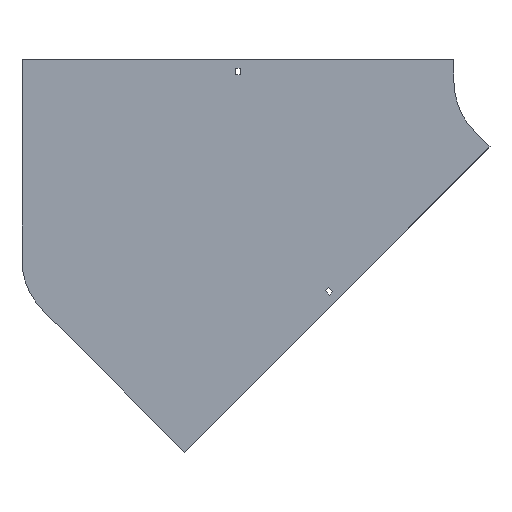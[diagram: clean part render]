
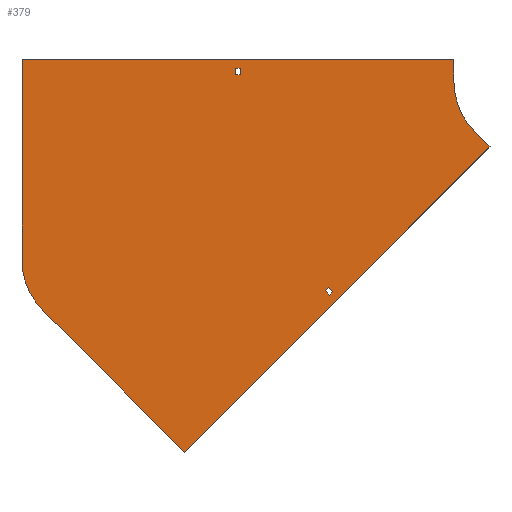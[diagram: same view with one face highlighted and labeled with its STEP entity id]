
A CAD part, front view. The second image highlights one B-rep face of the part: STEP entity #379.
In plain terms, the highlighted planar face has unit normal (0, -1, 0).
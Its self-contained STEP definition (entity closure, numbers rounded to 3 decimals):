
#5 = VERTEX_POINT ( 'NONE', #502 ) ;
#12 = VERTEX_POINT ( 'NONE', #788 ) ;
#35 = EDGE_CURVE ( 'NONE', #895, #94, #371, .T. ) ;
#70 = CARTESIAN_POINT ( 'NONE',  ( -273.827, 0., -299.283 ) ) ;
#94 = VERTEX_POINT ( 'NONE', #540 ) ;
#96 = CARTESIAN_POINT ( 'NONE',  ( -280.191, 0., -292.919 ) ) ;
#110 = EDGE_LOOP ( 'NONE', ( #1560, #966, #730, #1944 ) ) ;
#123 = VERTEX_POINT ( 'NONE', #569 ) ;
#145 = CARTESIAN_POINT ( 'NONE',  ( -405.25, 0., 9. ) ) ;
#156 = LINE ( 'NONE', #755, #1116 ) ;
#158 = EDGE_CURVE ( 'NONE', #735, #5, #1308, .T. ) ;
#203 = DIRECTION ( 'NONE',  ( -1., 0., 0. ) ) ;
#220 = LINE ( 'NONE', #820, #463 ) ;
#222 = LINE ( 'NONE', #671, #1508 ) ;
#243 = ORIENTED_EDGE ( 'NONE', *, *, #296, .F. ) ;
#260 = EDGE_CURVE ( 'NONE', #611, #12, #769, .T. ) ;
#288 = DIRECTION ( 'NONE',  ( 0., -1., 0. ) ) ;
#296 = EDGE_CURVE ( 'NONE', #1522, #1083, #1368, .T. ) ;
#321 = CARTESIAN_POINT ( 'NONE',  ( -275.595, 0., -288.323 ) ) ;
#369 = VECTOR ( 'NONE', #1279, 1000. ) ;
#371 = LINE ( 'NONE', #932, #524 ) ;
#379 = ADVANCED_FACE ( 'NONE', ( #1484, #1635, #1760 ), #1795, .T. ) ;
#391 = LINE ( 'NONE', #1002, #629 ) ;
#409 = CARTESIAN_POINT ( 'NONE',  ( -100., 0., 30. ) ) ;
#463 = VECTOR ( 'NONE', #1422, 1000. ) ;
#488 = DIRECTION ( 'NONE',  ( 0., 0., -1. ) ) ;
#499 = VECTOR ( 'NONE', #1302, 1000. ) ;
#502 = CARTESIAN_POINT ( 'NONE',  ( -398.75, 0., 18. ) ) ;
#503 = EDGE_CURVE ( 'NONE', #94, #611, #1403, .T. ) ;
#508 = CARTESIAN_POINT ( 'NONE',  ( -100., 0., 0. ) ) ;
#513 = EDGE_CURVE ( 'NONE', #1814, #1543, #618, .T. ) ;
#524 = VECTOR ( 'NONE', #1115, 1000. ) ;
#540 = CARTESIAN_POINT ( 'NONE',  ( -49.497, 0., -91.924 ) ) ;
#553 = ORIENTED_EDGE ( 'NONE', *, *, #1154, .F. ) ;
#563 = EDGE_LOOP ( 'NONE', ( #1454, #243, #1032, #974, #1164, #1299, #1129, #1659 ) ) ;
#569 = CARTESIAN_POINT ( 'NONE',  ( -100., 0., 30. ) ) ;
#597 = CARTESIAN_POINT ( 'NONE',  ( -269.231, 0., -294.687 ) ) ;
#611 = VERTEX_POINT ( 'NONE', #1586 ) ;
#618 = LINE ( 'NONE', #792, #997 ) ;
#629 = VECTOR ( 'NONE', #1460, 1000. ) ;
#658 = CARTESIAN_POINT ( 'NONE',  ( -704., 0., 30. ) ) ;
#668 = VERTEX_POINT ( 'NONE', #96 ) ;
#671 = CARTESIAN_POINT ( 'NONE',  ( -280.191, 0., -292.919 ) ) ;
#714 = CARTESIAN_POINT ( 'NONE',  ( 0., 0., 0. ) ) ;
#715 = DIRECTION ( 'NONE',  ( 0., 1., 0. ) ) ;
#718 = EDGE_CURVE ( 'NONE', #1862, #895, #1634, .T. ) ;
#721 = VECTOR ( 'NONE', #1031, 1000. ) ;
#724 = DIRECTION ( 'NONE',  ( 0., 0., -1. ) ) ;
#730 = ORIENTED_EDGE ( 'NONE', *, *, #860, .T. ) ;
#735 = VERTEX_POINT ( 'NONE', #1548 ) ;
#755 = CARTESIAN_POINT ( 'NONE',  ( -704., 0., 30. ) ) ;
#758 = CARTESIAN_POINT ( 'NONE',  ( -476.59, 0., -519.016 ) ) ;
#769 = LINE ( 'NONE', #758, #1504 ) ;
#788 = CARTESIAN_POINT ( 'NONE',  ( -674.711, 0., -320.896 ) ) ;
#792 = CARTESIAN_POINT ( 'NONE',  ( -405.25, 0., 9. ) ) ;
#813 = DIRECTION ( 'NONE',  ( 0., -1., 0. ) ) ;
#816 = EDGE_CURVE ( 'NONE', #1446, #668, #222, .T. ) ;
#820 = CARTESIAN_POINT ( 'NONE',  ( -405.25, 0., 9. ) ) ;
#837 = DIRECTION ( 'NONE',  ( 0., 0., -1. ) ) ;
#841 = AXIS2_PLACEMENT_3D ( 'NONE', #714, #288, #724 ) ;
#853 = DIRECTION ( 'NONE',  ( 1., 0., 0. ) ) ;
#860 = EDGE_CURVE ( 'NONE', #5, #1814, #1325, .T. ) ;
#895 = VERTEX_POINT ( 'NONE', #1024 ) ;
#904 = AXIS2_PLACEMENT_3D ( 'NONE', #1578, #813, #488 ) ;
#932 = CARTESIAN_POINT ( 'NONE',  ( -70.711, 0., -70.711 ) ) ;
#944 = ORIENTED_EDGE ( 'NONE', *, *, #1324, .F. ) ;
#949 = CARTESIAN_POINT ( 'NONE',  ( -49.497, 0., -91.924 ) ) ;
#966 = ORIENTED_EDGE ( 'NONE', *, *, #158, .T. ) ;
#974 = ORIENTED_EDGE ( 'NONE', *, *, #260, .F. ) ;
#997 = VECTOR ( 'NONE', #203, 1000. ) ;
#1002 = CARTESIAN_POINT ( 'NONE',  ( -280.191, 0., -292.919 ) ) ;
#1024 = CARTESIAN_POINT ( 'NONE',  ( -70.711, 0., -70.711 ) ) ;
#1031 = DIRECTION ( 'NONE',  ( -0.707, 0., 0.707 ) ) ;
#1032 = ORIENTED_EDGE ( 'NONE', *, *, #1790, .F. ) ;
#1083 = VERTEX_POINT ( 'NONE', #658 ) ;
#1115 = DIRECTION ( 'NONE',  ( 0.707, 0., -0.707 ) ) ;
#1116 = VECTOR ( 'NONE', #1354, 1000. ) ;
#1129 = ORIENTED_EDGE ( 'NONE', *, *, #718, .F. ) ;
#1134 = EDGE_CURVE ( 'NONE', #1543, #735, #220, .T. ) ;
#1145 = CARTESIAN_POINT ( 'NONE',  ( -273.827, 0., -299.283 ) ) ;
#1154 = EDGE_CURVE ( 'NONE', #1623, #1715, #1903, .T. ) ;
#1157 = EDGE_CURVE ( 'NONE', #123, #1862, #1433, .T. ) ;
#1160 = CARTESIAN_POINT ( 'NONE',  ( -398.75, 0., 9. ) ) ;
#1164 = ORIENTED_EDGE ( 'NONE', *, *, #503, .F. ) ;
#1166 = EDGE_CURVE ( 'NONE', #668, #1623, #391, .T. ) ;
#1171 = CARTESIAN_POINT ( 'NONE',  ( -275.595, 0., -288.323 ) ) ;
#1199 = CARTESIAN_POINT ( 'NONE',  ( -704., 0., -250.185 ) ) ;
#1206 = EDGE_LOOP ( 'NONE', ( #553, #1640, #1419, #944 ) ) ;
#1226 = CARTESIAN_POINT ( 'NONE',  ( -704., 0., -250.185 ) ) ;
#1279 = DIRECTION ( 'NONE',  ( 0.707, 0., 0.707 ) ) ;
#1287 = CARTESIAN_POINT ( 'NONE',  ( -405.25, 0., 18. ) ) ;
#1299 = ORIENTED_EDGE ( 'NONE', *, *, #35, .F. ) ;
#1302 = DIRECTION ( 'NONE',  ( 0., 0., -1. ) ) ;
#1308 = LINE ( 'NONE', #1287, #1475 ) ;
#1324 = EDGE_CURVE ( 'NONE', #1715, #1446, #1792, .T. ) ;
#1325 = LINE ( 'NONE', #1437, #499 ) ;
#1354 = DIRECTION ( 'NONE',  ( 1., 0., 0. ) ) ;
#1368 = LINE ( 'NONE', #1199, #1409 ) ;
#1379 = VECTOR ( 'NONE', #1848, 1000. ) ;
#1403 = LINE ( 'NONE', #949, #1379 ) ;
#1409 = VECTOR ( 'NONE', #1670, 1000. ) ;
#1419 = ORIENTED_EDGE ( 'NONE', *, *, #816, .F. ) ;
#1422 = DIRECTION ( 'NONE',  ( 0., 0., 1. ) ) ;
#1433 = LINE ( 'NONE', #409, #1472 ) ;
#1437 = CARTESIAN_POINT ( 'NONE',  ( -398.75, 0., 9. ) ) ;
#1446 = VERTEX_POINT ( 'NONE', #321 ) ;
#1454 = ORIENTED_EDGE ( 'NONE', *, *, #1815, .F. ) ;
#1460 = DIRECTION ( 'NONE',  ( 0.707, 0., -0.707 ) ) ;
#1472 = VECTOR ( 'NONE', #837, 1000. ) ;
#1475 = VECTOR ( 'NONE', #853, 1000. ) ;
#1476 = CIRCLE ( 'NONE', #1732, 100. ) ;
#1484 = FACE_BOUND ( 'NONE', #110, .T. ) ;
#1503 = DIRECTION ( 'NONE',  ( 0., 0., 1. ) ) ;
#1504 = VECTOR ( 'NONE', #1507, 1000. ) ;
#1507 = DIRECTION ( 'NONE',  ( -0.707, 0., 0.707 ) ) ;
#1508 = VECTOR ( 'NONE', #1850, 1000. ) ;
#1522 = VERTEX_POINT ( 'NONE', #1226 ) ;
#1543 = VERTEX_POINT ( 'NONE', #145 ) ;
#1548 = CARTESIAN_POINT ( 'NONE',  ( -405.25, 0., 18. ) ) ;
#1560 = ORIENTED_EDGE ( 'NONE', *, *, #1134, .T. ) ;
#1578 = CARTESIAN_POINT ( 'NONE',  ( 0., 0., 0. ) ) ;
#1586 = CARTESIAN_POINT ( 'NONE',  ( -476.59, 0., -519.016 ) ) ;
#1623 = VERTEX_POINT ( 'NONE', #70 ) ;
#1634 = CIRCLE ( 'NONE', #904, 100. ) ;
#1635 = FACE_OUTER_BOUND ( 'NONE', #563, .T. ) ;
#1640 = ORIENTED_EDGE ( 'NONE', *, *, #1166, .F. ) ;
#1654 = CARTESIAN_POINT ( 'NONE',  ( -604., 0., -250.185 ) ) ;
#1659 = ORIENTED_EDGE ( 'NONE', *, *, #1157, .F. ) ;
#1670 = DIRECTION ( 'NONE',  ( 0., 0., 1. ) ) ;
#1715 = VERTEX_POINT ( 'NONE', #597 ) ;
#1732 = AXIS2_PLACEMENT_3D ( 'NONE', #1654, #715, #1503 ) ;
#1760 = FACE_BOUND ( 'NONE', #1206, .T. ) ;
#1790 = EDGE_CURVE ( 'NONE', #12, #1522, #1476, .T. ) ;
#1792 = LINE ( 'NONE', #1171, #721 ) ;
#1795 = PLANE ( 'NONE',  #841 ) ;
#1814 = VERTEX_POINT ( 'NONE', #1160 ) ;
#1815 = EDGE_CURVE ( 'NONE', #1083, #123, #156, .T. ) ;
#1848 = DIRECTION ( 'NONE',  ( -0.707, 0., -0.707 ) ) ;
#1850 = DIRECTION ( 'NONE',  ( -0.707, 0., -0.707 ) ) ;
#1862 = VERTEX_POINT ( 'NONE', #508 ) ;
#1903 = LINE ( 'NONE', #1145, #369 ) ;
#1944 = ORIENTED_EDGE ( 'NONE', *, *, #513, .T. ) ;
